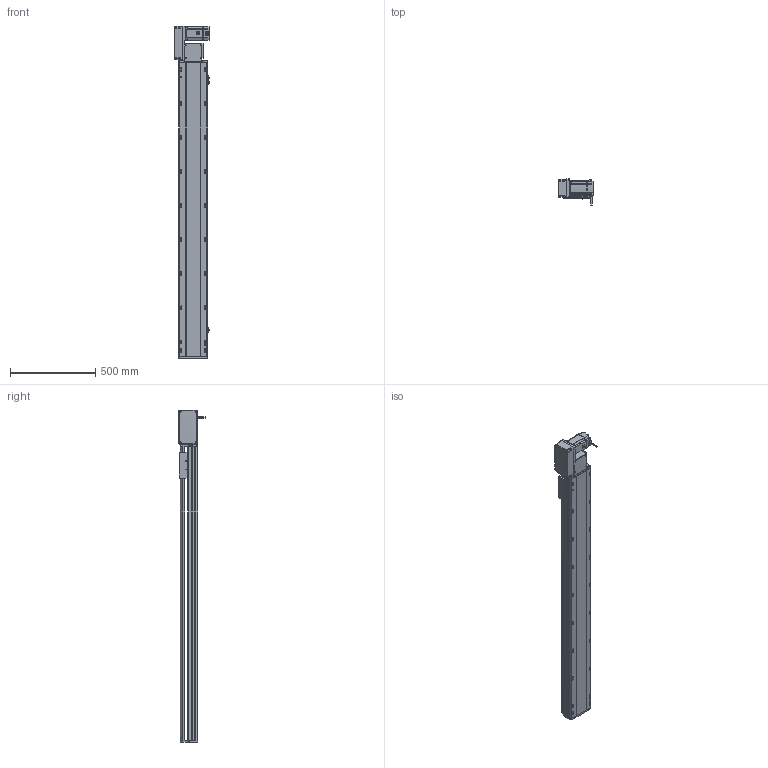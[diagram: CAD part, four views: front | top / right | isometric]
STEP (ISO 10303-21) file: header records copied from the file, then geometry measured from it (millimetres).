
FILE_DESCRIPTION (( 'STEP AP214' ), '1' );
FILE_NAME ('RTB17S-XX-1450-L-M75-C4.STEP', '2025-12-12T00:15:44', ( '' ), ( '' ), 'SwSTEP 2.0', 'SolidWorks 2018', '' );
FILE_SCHEMA (( 'AUTOMOTIVE_DESIGN' ));
Length unit declared in the file: millimetre
Products named in the file (15): EE672^RTB17S-XX-XX-L-M75-C4; RTB22S-GY-005P^RTB17S-L-々湍釱蚾饜-750W_RTB17S-XX-XX-L-M75-C4; RTB17-R-011菁釱^RTB17S-XX-XX-L-M75-C4; RTB22S-GY-008-M75--萇儂啣^RTB17S-L-々湍釱蚾饜-750W_RTB17S-XX-XX-L-M75-C4; RTB17S-賑釱^RTB17S-XX-XX-L-M75-C4; RTB17S-L-004-賑釱^RTB17S-賑釱_RTB17S-XX-XX-L-M75-C4; RTB22S-GY-017P^RTB17S-L-々湍釱蚾饜-750W_RTB17S-XX-XX-L-M75-C4; RMP17S-L-014-T20-P75--々湍釱^RTB17S-L-々湍釱蚾饜-750W_RTB17S-XX-XX-L-M75-C4; RTB17S-L-001-耜醱啣^RTB17S-XX-XX-L-M75-C4; RTB17S-L-々湍釱蚾饜-750W^RTB17S-XX-XX-L-M75-C4; RTB17S-L-007奻裔^RTB17S-XX-XX-L-M75-C4; RTB22S-GY-018P^RTB17S-L-々湍釱蚾饜-750W_RTB17S-XX-XX-L-M75-C4; RTB17S-XX-1450-L-M75-C4; RTH13-BL-012覜茼え俋离^RTB17S-賑釱_RTB17S-XX-XX-L-M75-C4; 750W萇儂^RTB17S-XX-XX-L-M75-C4
Assembly tree (17 placements, depth 3):
  RTB17S-XX-1450-L-M75-C4
    RTB17-R-011菁釱^RTB17S-XX-XX-L-M75-C4
    EE672^RTB17S-XX-XX-L-M75-C4  x3
    RTB17S-L-001-耜醱啣^RTB17S-XX-XX-L-M75-C4
    RTB17S-賑釱^RTB17S-XX-XX-L-M75-C4
      RTB17S-L-004-賑釱^RTB17S-賑釱_RTB17S-XX-XX-L-M75-C4
      RTH13-BL-012覜茼え俋离^RTB17S-賑釱_RTB17S-XX-XX-L-M75-C4
    RTB17S-L-007奻裔^RTB17S-XX-XX-L-M75-C4
    750W萇儂^RTB17S-XX-XX-L-M75-C4
    RTB17S-L-々湍釱蚾饜-750W^RTB17S-XX-XX-L-M75-C4
      RMP17S-L-014-T20-P75--々湍釱^RTB17S-L-々湍釱蚾饜-750W_RTB17S-XX-XX-L-M75-C4
      RTB22S-GY-005P^RTB17S-L-々湍釱蚾饜-750W_RTB17S-XX-XX-L-M75-C4
      RTB22S-GY-017P^RTB17S-L-々湍釱蚾饜-750W_RTB17S-XX-XX-L-M75-C4  x2
      RTB22S-GY-008-M75--萇儂啣^RTB17S-L-々湍釱蚾饜-750W_RTB17S-XX-XX-L-M75-C4
      RTB22S-GY-018P^RTB17S-L-々湍釱蚾饜-750W_RTB17S-XX-XX-L-M75-C4
Bounding box: 210.4 x 152.7 x 1949 mm (x, y, z)
Volume: 15008918.3 mm3; surface area: 2625465.8 mm2
Topology: 17 solids, 17 shells, 2137 faces, 5944 edges, 3842 vertices
Faces by surface type: plane 976, cylinder 745, bspline 294, cone 110, sphere 8, torus 4
Entity records: 60406 total; most frequent: CARTESIAN_POINT 17808, ORIENTED_EDGE 8732, DIRECTION 8132, EDGE_CURVE 4366, AXIS2_PLACEMENT_3D 2862, VERTEX_POINT 2846, LINE 2408, VECTOR 2408
